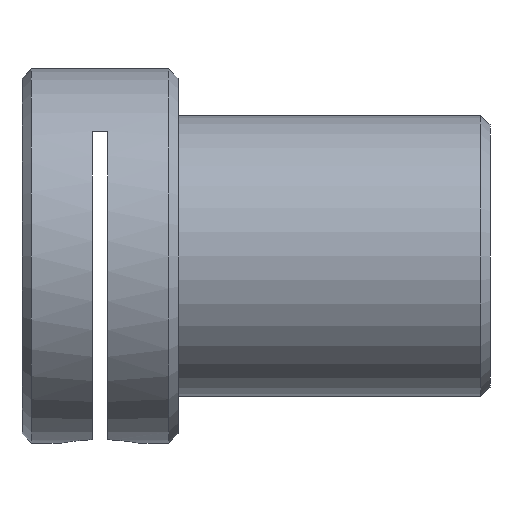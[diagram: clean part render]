
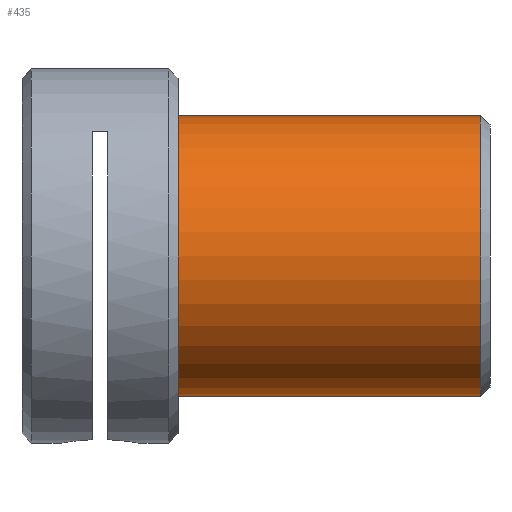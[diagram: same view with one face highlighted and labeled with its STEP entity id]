
A CAD part, left-side view. The second image highlights one B-rep face of the part: STEP entity #435.
In plain terms, the highlighted cylindrical face has radius 4.5 mm (diameter 9 mm), a partial arc.
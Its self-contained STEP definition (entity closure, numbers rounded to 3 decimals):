
#2 = DIRECTION ( 'NONE',  ( 0., 0., -1. ) ) ;
#4 = LINE ( 'NONE', #542, #599 ) ;
#12 = DIRECTION ( 'NONE',  ( 0., 1., 0. ) ) ;
#33 = CARTESIAN_POINT ( 'NONE',  ( 0., 0.3, -4.5 ) ) ;
#51 = EDGE_CURVE ( 'NONE', #765, #561, #4, .T. ) ;
#65 = CIRCLE ( 'NONE', #626, 4.5 ) ;
#69 = AXIS2_PLACEMENT_3D ( 'NONE', #423, #403, #101 ) ;
#88 = FACE_OUTER_BOUND ( 'NONE', #724, .T. ) ;
#101 = DIRECTION ( 'NONE',  ( 0., 0., 1. ) ) ;
#129 = EDGE_CURVE ( 'NONE', #752, #561, #491, .T. ) ;
#167 = VERTEX_POINT ( 'NONE', #33 ) ;
#204 = VECTOR ( 'NONE', #859, 1000. ) ;
#267 = CARTESIAN_POINT ( 'NONE',  ( 0., 10., 4.5 ) ) ;
#298 = DIRECTION ( 'NONE',  ( 0., 0., 1. ) ) ;
#321 = CARTESIAN_POINT ( 'NONE',  ( 0., 0.3, 0. ) ) ;
#355 = EDGE_CURVE ( 'NONE', #167, #765, #65, .T. ) ;
#374 = DIRECTION ( 'NONE',  ( 0., 1., 0. ) ) ;
#403 = DIRECTION ( 'NONE',  ( 0., 1., 0. ) ) ;
#423 = CARTESIAN_POINT ( 'NONE',  ( 0., 10., 0. ) ) ;
#435 = ADVANCED_FACE ( 'NONE', ( #88 ), #448, .T. ) ;
#448 = CYLINDRICAL_SURFACE ( 'NONE', #805, 4.5 ) ;
#491 = CIRCLE ( 'NONE', #69, 4.5 ) ;
#494 = CARTESIAN_POINT ( 'NONE',  ( 0., 10., -4.5 ) ) ;
#542 = CARTESIAN_POINT ( 'NONE',  ( 0., 12.809, 4.5 ) ) ;
#545 = DIRECTION ( 'NONE',  ( 0., 1., 0. ) ) ;
#561 = VERTEX_POINT ( 'NONE', #267 ) ;
#571 = LINE ( 'NONE', #868, #204 ) ;
#597 = ORIENTED_EDGE ( 'NONE', *, *, #355, .T. ) ;
#599 = VECTOR ( 'NONE', #545, 1000. ) ;
#626 = AXIS2_PLACEMENT_3D ( 'NONE', #321, #12, #2 ) ;
#628 = ORIENTED_EDGE ( 'NONE', *, *, #129, .F. ) ;
#724 = EDGE_LOOP ( 'NONE', ( #899, #597, #841, #628 ) ) ;
#752 = VERTEX_POINT ( 'NONE', #494 ) ;
#765 = VERTEX_POINT ( 'NONE', #940 ) ;
#805 = AXIS2_PLACEMENT_3D ( 'NONE', #897, #374, #298 ) ;
#812 = EDGE_CURVE ( 'NONE', #167, #752, #571, .T. ) ;
#841 = ORIENTED_EDGE ( 'NONE', *, *, #51, .T. ) ;
#859 = DIRECTION ( 'NONE',  ( 0., 1., 0. ) ) ;
#868 = CARTESIAN_POINT ( 'NONE',  ( 0., 12.809, -4.5 ) ) ;
#897 = CARTESIAN_POINT ( 'NONE',  ( 0., 12.809, 0. ) ) ;
#899 = ORIENTED_EDGE ( 'NONE', *, *, #812, .F. ) ;
#940 = CARTESIAN_POINT ( 'NONE',  ( 0., 0.3, 4.5 ) ) ;
